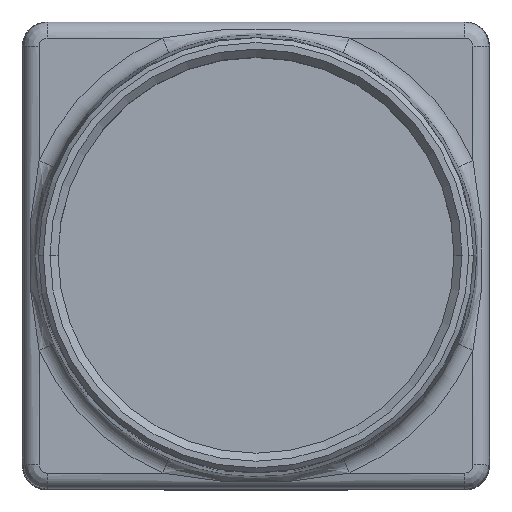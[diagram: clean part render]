
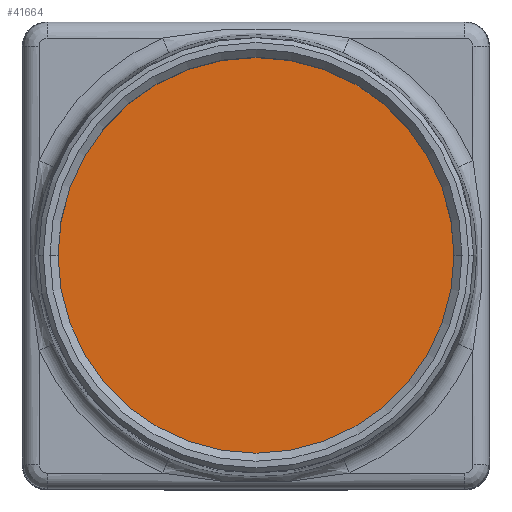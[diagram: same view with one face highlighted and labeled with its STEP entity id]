
A CAD part, top view. The second image highlights one B-rep face of the part: STEP entity #41664.
In plain terms, the highlighted planar face has unit normal (0, 0, 1).
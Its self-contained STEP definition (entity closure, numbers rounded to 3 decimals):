
#12944 = CIRCLE ( 'NONE', #37322, 13. ) ;
#15106 = FACE_OUTER_BOUND ( 'NONE', #55445, .T. ) ;
#17447 = CARTESIAN_POINT ( 'NONE',  ( 0., 0., -14.25 ) ) ;
#20817 = DIRECTION ( 'NONE',  ( 0., 0., 1. ) ) ;
#21313 = CARTESIAN_POINT ( 'NONE',  ( -13., 0., -14.25 ) ) ;
#23383 = DIRECTION ( 'NONE',  ( 1., 0., 0. ) ) ;
#26755 = CARTESIAN_POINT ( 'NONE',  ( 0., 0., -14.25 ) ) ;
#27363 = DIRECTION ( 'NONE',  ( 0., 0., 1. ) ) ;
#33833 = EDGE_CURVE ( 'NONE', #64182, #38884, #62235, .T. ) ;
#37322 = AXIS2_PLACEMENT_3D ( 'NONE', #62715, #27363, #68632 ) ;
#38626 = DIRECTION ( 'NONE',  ( 1., 0., 0. ) ) ;
#38884 = VERTEX_POINT ( 'NONE', #45953 ) ;
#41664 = ADVANCED_FACE ( 'NONE', ( #15106 ), #73991, .T. ) ;
#45953 = CARTESIAN_POINT ( 'NONE',  ( 13., 0., -14.25 ) ) ;
#48789 = AXIS2_PLACEMENT_3D ( 'NONE', #17447, #58758, #23383 ) ;
#55445 = EDGE_LOOP ( 'NONE', ( #69033, #70028 ) ) ;
#58758 = DIRECTION ( 'NONE',  ( 0., 0., 1. ) ) ;
#59787 = EDGE_CURVE ( 'NONE', #38884, #64182, #12944, .T. ) ;
#61255 = AXIS2_PLACEMENT_3D ( 'NONE', #26755, #20817, #38626 ) ;
#62235 = CIRCLE ( 'NONE', #48789, 13. ) ;
#62715 = CARTESIAN_POINT ( 'NONE',  ( 0., 0., -14.25 ) ) ;
#64182 = VERTEX_POINT ( 'NONE', #21313 ) ;
#68632 = DIRECTION ( 'NONE',  ( 1., 0., 0. ) ) ;
#69033 = ORIENTED_EDGE ( 'NONE', *, *, #59787, .T. ) ;
#70028 = ORIENTED_EDGE ( 'NONE', *, *, #33833, .T. ) ;
#73991 = PLANE ( 'NONE',  #61255 ) ;
